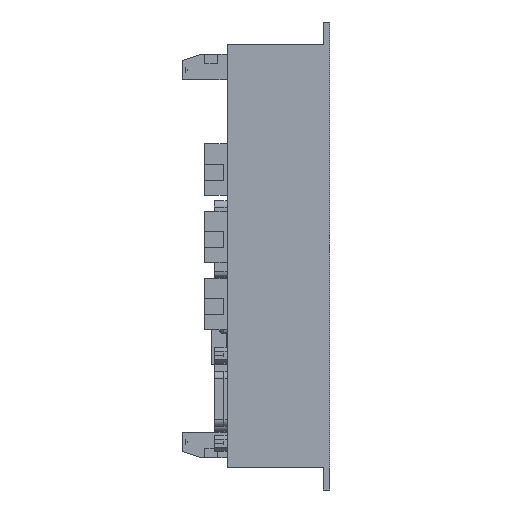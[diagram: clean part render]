
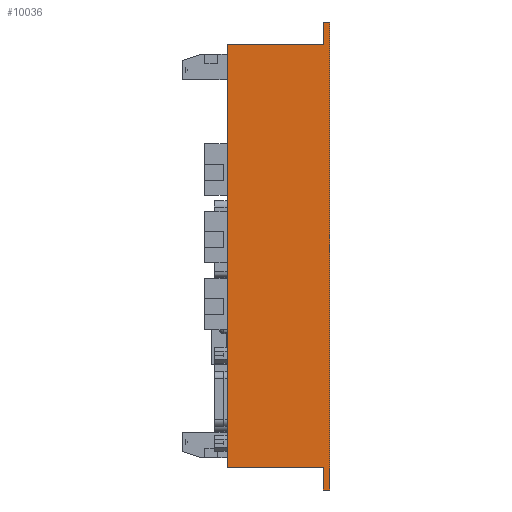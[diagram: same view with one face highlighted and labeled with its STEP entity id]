
A CAD part, left-side view. The second image highlights one B-rep face of the part: STEP entity #10036.
In plain terms, the highlighted planar face has unit normal (-1, 0, 0).
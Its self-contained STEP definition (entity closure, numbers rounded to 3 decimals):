
#155 = VERTEX_POINT ( 'NONE', #3641 ) ;
#1771 = LINE ( 'NONE', #29254, #17202 ) ;
#1872 = EDGE_CURVE ( 'NONE', #65237, #3486, #53028, .T. ) ;
#1930 = CARTESIAN_POINT ( 'NONE',  ( 0., 32., -63.297 ) ) ;
#3486 = VERTEX_POINT ( 'NONE', #53112 ) ;
#3540 = VERTEX_POINT ( 'NONE', #65549 ) ;
#3641 = CARTESIAN_POINT ( 'NONE',  ( 0., 2., 75.703 ) ) ;
#3679 = CARTESIAN_POINT ( 'NONE',  ( 0., 2., 75.703 ) ) ;
#4081 = ORIENTED_EDGE ( 'NONE', *, *, #65710, .F. ) ;
#4217 = EDGE_CURVE ( 'NONE', #74336, #54020, #33555, .T. ) ;
#5807 = ORIENTED_EDGE ( 'NONE', *, *, #11460, .F. ) ;
#5870 = CARTESIAN_POINT ( 'NONE',  ( 0., 2., -70.297 ) ) ;
#6107 = LINE ( 'NONE', #30194, #65985 ) ;
#7222 = EDGE_LOOP ( 'NONE', ( #52745, #4081, #73693, #55748, #48596, #5807, #57222, #9063 ) ) ;
#9063 = ORIENTED_EDGE ( 'NONE', *, *, #1872, .F. ) ;
#9497 = DIRECTION ( 'NONE',  ( 0., -1., 0. ) ) ;
#10036 = ADVANCED_FACE ( 'NONE', ( #24835 ), #59171, .F. ) ;
#11460 = EDGE_CURVE ( 'NONE', #39271, #74336, #69183, .T. ) ;
#11677 = DIRECTION ( 'NONE',  ( 0., 0., 1. ) ) ;
#11946 = VECTOR ( 'NONE', #40671, 1000. ) ;
#17202 = VECTOR ( 'NONE', #46746, 1000. ) ;
#18349 = CARTESIAN_POINT ( 'NONE',  ( 0., 0., 0. ) ) ;
#18408 = CARTESIAN_POINT ( 'NONE',  ( 0., 2., -70.297 ) ) ;
#18992 = DIRECTION ( 'NONE',  ( 0., 1., 0. ) ) ;
#20555 = LINE ( 'NONE', #3679, #49559 ) ;
#22676 = CARTESIAN_POINT ( 'NONE',  ( 0., 2., 68.703 ) ) ;
#22856 = VECTOR ( 'NONE', #11677, 1000. ) ;
#24835 = FACE_OUTER_BOUND ( 'NONE', #7222, .T. ) ;
#25376 = CARTESIAN_POINT ( 'NONE',  ( 0., 2., -63.297 ) ) ;
#27797 = CARTESIAN_POINT ( 'NONE',  ( 0., 32., -63.297 ) ) ;
#29254 = CARTESIAN_POINT ( 'NONE',  ( 0., 32., 68.703 ) ) ;
#29498 = LINE ( 'NONE', #47855, #58602 ) ;
#29845 = DIRECTION ( 'NONE',  ( 0., 0., -1. ) ) ;
#30194 = CARTESIAN_POINT ( 'NONE',  ( 0., 2., 68.703 ) ) ;
#30207 = DIRECTION ( 'NONE',  ( 0., 0., -1. ) ) ;
#33555 = LINE ( 'NONE', #34871, #11946 ) ;
#34871 = CARTESIAN_POINT ( 'NONE',  ( 0., 2., -63.297 ) ) ;
#37943 = LINE ( 'NONE', #27797, #39801 ) ;
#39271 = VERTEX_POINT ( 'NONE', #18408 ) ;
#39801 = VECTOR ( 'NONE', #68503, 1000. ) ;
#40403 = AXIS2_PLACEMENT_3D ( 'NONE', #18349, #65053, #30207 ) ;
#40671 = DIRECTION ( 'NONE',  ( 0., 1., 0. ) ) ;
#43066 = EDGE_CURVE ( 'NONE', #3540, #68969, #1771, .T. ) ;
#46016 = CARTESIAN_POINT ( 'NONE',  ( 0., 0., 75.703 ) ) ;
#46746 = DIRECTION ( 'NONE',  ( 0., -1., 0. ) ) ;
#47102 = CARTESIAN_POINT ( 'NONE',  ( 0., 0., 75.703 ) ) ;
#47703 = DIRECTION ( 'NONE',  ( 0., 0., 1. ) ) ;
#47855 = CARTESIAN_POINT ( 'NONE',  ( 0., 0., -70.297 ) ) ;
#48238 = EDGE_CURVE ( 'NONE', #54020, #3540, #37943, .T. ) ;
#48596 = ORIENTED_EDGE ( 'NONE', *, *, #4217, .F. ) ;
#49559 = VECTOR ( 'NONE', #9497, 1000. ) ;
#50588 = EDGE_CURVE ( 'NONE', #155, #65237, #20555, .T. ) ;
#52745 = ORIENTED_EDGE ( 'NONE', *, *, #50588, .F. ) ;
#53028 = LINE ( 'NONE', #47102, #59334 ) ;
#53112 = CARTESIAN_POINT ( 'NONE',  ( 0., 0., -70.297 ) ) ;
#54020 = VERTEX_POINT ( 'NONE', #1930 ) ;
#55748 = ORIENTED_EDGE ( 'NONE', *, *, #48238, .F. ) ;
#57222 = ORIENTED_EDGE ( 'NONE', *, *, #66283, .F. ) ;
#58602 = VECTOR ( 'NONE', #18992, 1000. ) ;
#59171 = PLANE ( 'NONE',  #40403 ) ;
#59334 = VECTOR ( 'NONE', #29845, 1000. ) ;
#65053 = DIRECTION ( 'NONE',  ( 1., 0., 0. ) ) ;
#65237 = VERTEX_POINT ( 'NONE', #46016 ) ;
#65549 = CARTESIAN_POINT ( 'NONE',  ( 0., 32., 68.703 ) ) ;
#65710 = EDGE_CURVE ( 'NONE', #68969, #155, #6107, .T. ) ;
#65985 = VECTOR ( 'NONE', #47703, 1000. ) ;
#66283 = EDGE_CURVE ( 'NONE', #3486, #39271, #29498, .T. ) ;
#68503 = DIRECTION ( 'NONE',  ( 0., 0., 1. ) ) ;
#68969 = VERTEX_POINT ( 'NONE', #22676 ) ;
#69183 = LINE ( 'NONE', #5870, #22856 ) ;
#73693 = ORIENTED_EDGE ( 'NONE', *, *, #43066, .F. ) ;
#74336 = VERTEX_POINT ( 'NONE', #25376 ) ;
